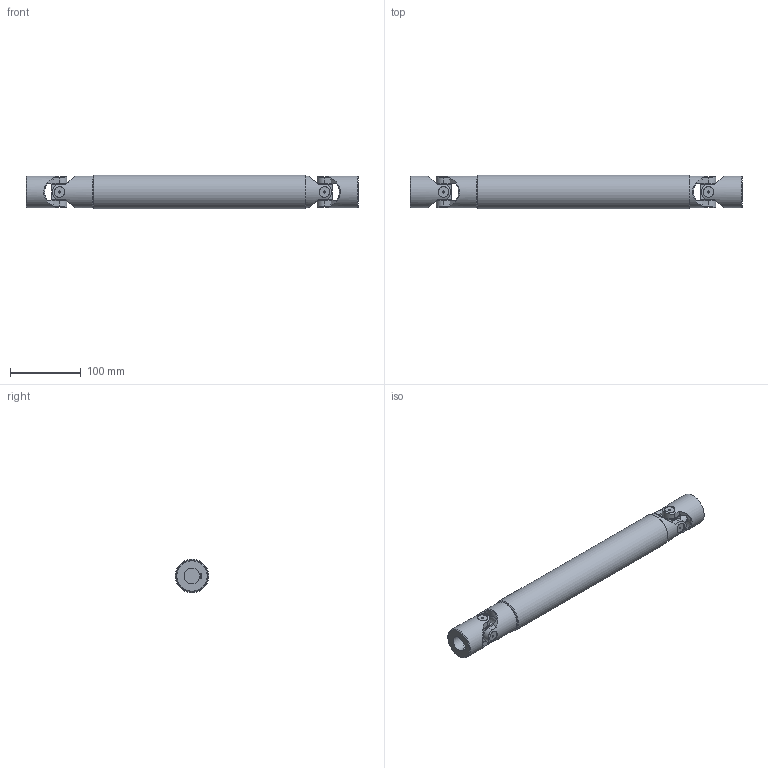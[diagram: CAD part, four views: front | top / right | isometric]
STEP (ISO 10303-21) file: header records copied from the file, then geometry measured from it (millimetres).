
FILE_DESCRIPTION(/* description */ (''),/* implementation_level */ '2;1');
FILE_NAME(/* name */ '\\SRV2016\Societa\Stefano\Disegni 3D\00Catalogo 3D\03Trasmissioni standard GA\4GA26\4GA26_SG0A2226.stp',/* time_stamp */ '2022-03-15T15:04:44+01:00',/* author */ ('acquisti'),/* organization */ (''),/* preprocessor_version */ 'ST-DEVELOPER v15.6',/* originating_system */ 'Autodesk Inventor 2015',/* authorisation */ '');
FILE_SCHEMA (('AUTOMOTIVE_DESIGN { 1 0 10303 214 3 1 1 }'));
Length unit declared in the file: millimetre
Products named in the file (5): 4G MOC; 4GA SFE; 4GA26 LCI; 4GA26 LAI; 4GA26_SG0A2226
Assembly tree (6 placements, depth 2):
  4GA26_SG0A2226
    4G MOC  x2
    4GA SFE  x2
    4GA26 LCI
    4GA26 LAI
Bounding box: 470 x 47.5 x 47.5 mm (x, y, z)
Volume: 546929.5 mm3; surface area: 157545.5 mm2
Topology: 6 solids, 6 shells, 204 faces, 513 edges, 345 vertices
Faces by surface type: plane 106, cylinder 69, cone 25, torus 4
Full cylindrical faces by diameter (mm): 3 x8, 15 x8, 19 x8, 22 x1, 23 x2, 39 x1, 45 x4, 47.5 x1
Entity records: 5283 total; most frequent: CARTESIAN_POINT 1527, DIRECTION 751, ORIENTED_EDGE 736, EDGE_CURVE 368, AXIS2_PLACEMENT_3D 299, VERTEX_POINT 268, EDGE_LOOP 212, FACE_OUTER_BOUND 158
